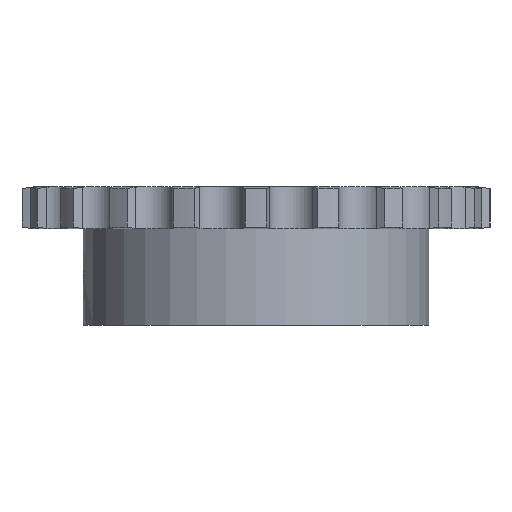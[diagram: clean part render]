
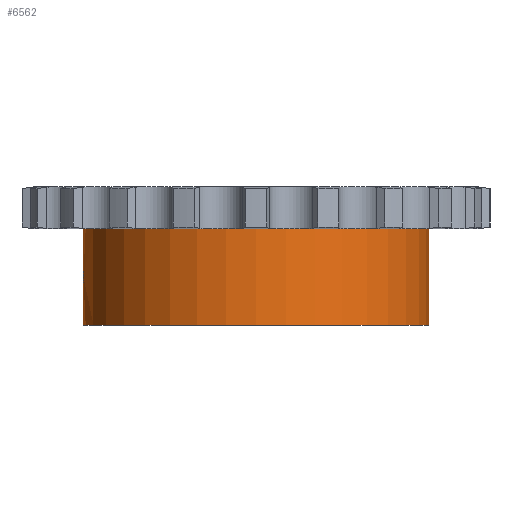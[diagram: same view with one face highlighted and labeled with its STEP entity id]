
A CAD part, front view. The second image highlights one B-rep face of the part: STEP entity #6562.
In plain terms, the highlighted cylindrical face has radius 37.5 mm (diameter 75 mm), a partial arc.
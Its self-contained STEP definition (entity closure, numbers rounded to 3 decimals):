
#1239=CARTESIAN_POINT('',(0.,0.,-4.55));
#1240=DIRECTION('',(0.,0.,1.));
#1241=DIRECTION('',(-1.,0.,0.));
#1242=AXIS2_PLACEMENT_3D('',#1239,#1240,#1241);
#3249=CARTESIAN_POINT('',(-37.5,0.,
-12.5));
#3271=DIRECTION('',(0.,0.,1.));
#3272=VECTOR('',#3271,20.9);
#3273=CARTESIAN_POINT('',(37.5,0.,-25.45));
#3274=LINE('',#3273,#3272);
#3390=CARTESIAN_POINT('',(-37.5,0.,
-12.5));
#3391=CARTESIAN_POINT('',(-37.5,-0.131,
-12.5));
#3392=CARTESIAN_POINT('',(-37.499,-0.392,
-12.52));
#3393=CARTESIAN_POINT('',(-37.492,-0.785,
-12.613));
#3394=CARTESIAN_POINT('',(-37.483,-1.159,
-12.766));
#3395=CARTESIAN_POINT('',(-37.47,-1.5,
-12.975));
#3396=CARTESIAN_POINT('',(-37.457,-1.801,
-13.232));
#3397=CARTESIAN_POINT('',(-37.444,-2.059,
-13.533));
#3398=CARTESIAN_POINT('',(-37.432,-2.267,
-13.873));
#3399=CARTESIAN_POINT('',(-37.422,-2.418,
-14.24));
#3400=CARTESIAN_POINT('',(-37.416,-2.508,
-14.622));
#3401=CARTESIAN_POINT('',(-37.415,-2.527,
-14.874));
#3402=CARTESIAN_POINT('',(-37.415,-2.527,
-15.));
#3407=DIRECTION('',(0.,0.,1.));
#3408=VECTOR('',#3407,7.95);
#3409=CARTESIAN_POINT('',(-37.5,0.,
-12.5));
#3410=LINE('',#3409,#3408);
#3414=DIRECTION('',(0.,0.,1.));
#3415=VECTOR('',#3414,7.95);
#3416=CARTESIAN_POINT('',(-37.5,0.,-25.45));
#3417=LINE('',#3416,#3415);
#3421=CARTESIAN_POINT('',(-37.415,-2.527,
-15.));
#3422=CARTESIAN_POINT('',(-37.415,-2.527,
-15.126));
#3423=CARTESIAN_POINT('',(-37.416,-2.508,
-15.377));
#3424=CARTESIAN_POINT('',(-37.422,-2.419,
-15.759));
#3425=CARTESIAN_POINT('',(-37.431,-2.268,
-16.126));
#3426=CARTESIAN_POINT('',(-37.444,-2.06,
-16.466));
#3427=CARTESIAN_POINT('',(-37.457,-1.801,
-16.768));
#3428=CARTESIAN_POINT('',(-37.47,-1.5,
-17.025));
#3429=CARTESIAN_POINT('',(-37.483,-1.159,
-17.233));
#3430=CARTESIAN_POINT('',(-37.492,-0.786,
-17.387));
#3431=CARTESIAN_POINT('',(-37.499,-0.393,
-17.48));
#3432=CARTESIAN_POINT('',(-37.5,-0.132,
-17.5));
#3433=CARTESIAN_POINT('',(-37.5,0.,
-17.5));
#3446=CARTESIAN_POINT('',(0.,0.,-25.45));
#3447=DIRECTION('',(0.,0.,-1.));
#3448=DIRECTION('',(1.,0.,0.));
#3449=AXIS2_PLACEMENT_3D('',#3446,#3447,#3448);
#3823=CARTESIAN_POINT('',(-37.5,0.,-25.45));
#3824=CARTESIAN_POINT('',(37.5,0.,-25.45));
#3825=VERTEX_POINT('',#3823);
#3826=VERTEX_POINT('',#3824);
#3827=CARTESIAN_POINT('',(37.5,0.,-4.55));
#3828=VERTEX_POINT('',#3827);
#3829=CARTESIAN_POINT('',(-37.5,0.,-4.55));
#3830=VERTEX_POINT('',#3829);
#4038=VERTEX_POINT('',#3249);
#4041=VERTEX_POINT('',#3402);
#4043=VERTEX_POINT('',#3433);
#6546=CARTESIAN_POINT('',(0.,0.,4.55));
#6547=DIRECTION('',(0.,0.,1.));
#6548=DIRECTION('',(1.,0.,0.));
#6549=AXIS2_PLACEMENT_3D('',#6546,#6547,#6548);
#6550=CYLINDRICAL_SURFACE('',#6549,37.5);
#6551=ORIENTED_EDGE('',*,*,#6536,.F.);
#6552=ORIENTED_EDGE('',*,*,#6167,.T.);
#6553=ORIENTED_EDGE('',*,*,#5390,.T.);
#6554=ORIENTED_EDGE('',*,*,#6164,.F.);
#6556=ORIENTED_EDGE('',*,*,#6555,.T.);
#6557=ORIENTED_EDGE('',*,*,#6160,.T.);
#6559=ORIENTED_EDGE('',*,*,#6558,.F.);
#6560=EDGE_LOOP('',(#6551,#6552,#6553,#6554,#6556,#6557,#6559));
#6561=FACE_OUTER_BOUND('',#6560,.F.);
#6562=ADVANCED_FACE('',(#6561),#6550,.T.);
#1243=CIRCLE('',#1242,37.5);
#3403=B_SPLINE_CURVE_WITH_KNOTS('',3,(#3390,#3391,#3392,#3393,#3394,#3395,#3396,
#3397,#3398,#3399,#3400,#3401,#3402),.UNSPECIFIED.,.F.,.F.,(4,1,1,1,1,1,1,1,1,1,
4),(0.,0.1,0.2,0.3,0.4,0.5,0.6,0.7,0.8,0.9,1.),
.UNSPECIFIED.);
#3434=B_SPLINE_CURVE_WITH_KNOTS('',3,(#3421,#3422,#3423,#3424,#3425,#3426,#3427,
#3428,#3429,#3430,#3431,#3432,#3433),.UNSPECIFIED.,.F.,.F.,(4,1,1,1,1,1,1,1,1,1,
4),(0.,0.1,0.2,0.3,0.4,0.5,0.6,0.7,0.8,0.9,1.),
.UNSPECIFIED.);
#3450=CIRCLE('',#3449,37.5);
#5390=EDGE_CURVE('',#3830,#3828,#1243,.T.);
#6160=EDGE_CURVE('',#3825,#4043,#3417,.T.);
#6164=EDGE_CURVE('',#3826,#3828,#3274,.T.);
#6167=EDGE_CURVE('',#4038,#3830,#3410,.T.);
#6536=EDGE_CURVE('',#4038,#4041,#3403,.T.);
#6555=EDGE_CURVE('',#3826,#3825,#3450,.T.);
#6558=EDGE_CURVE('',#4041,#4043,#3434,.T.);
